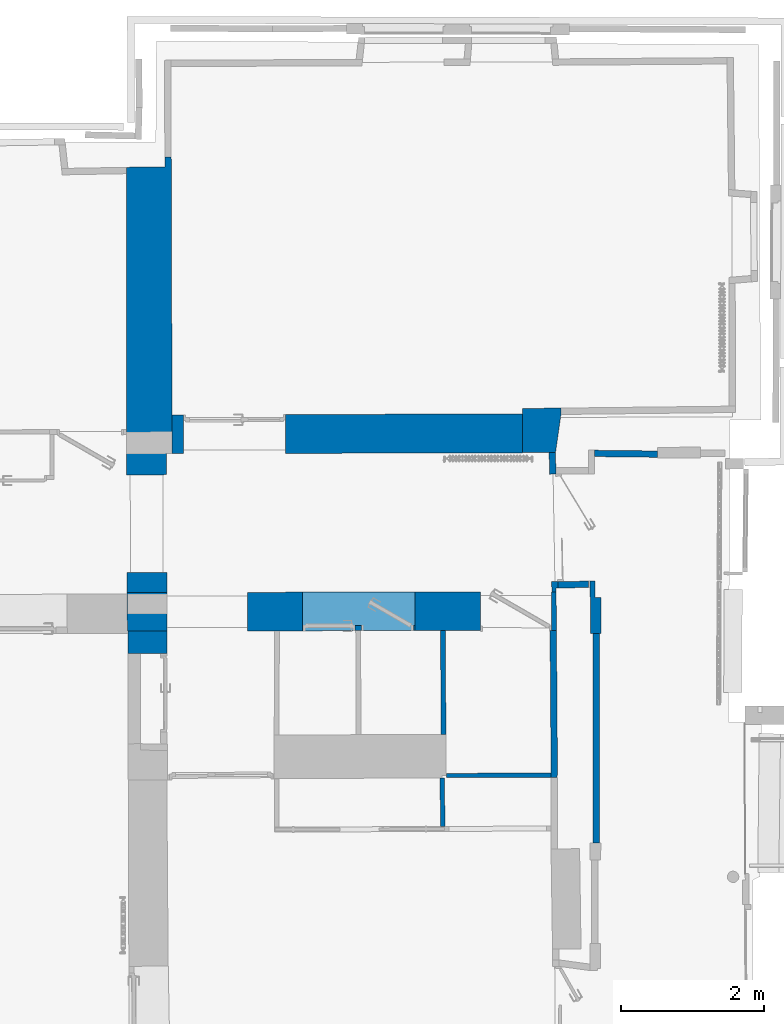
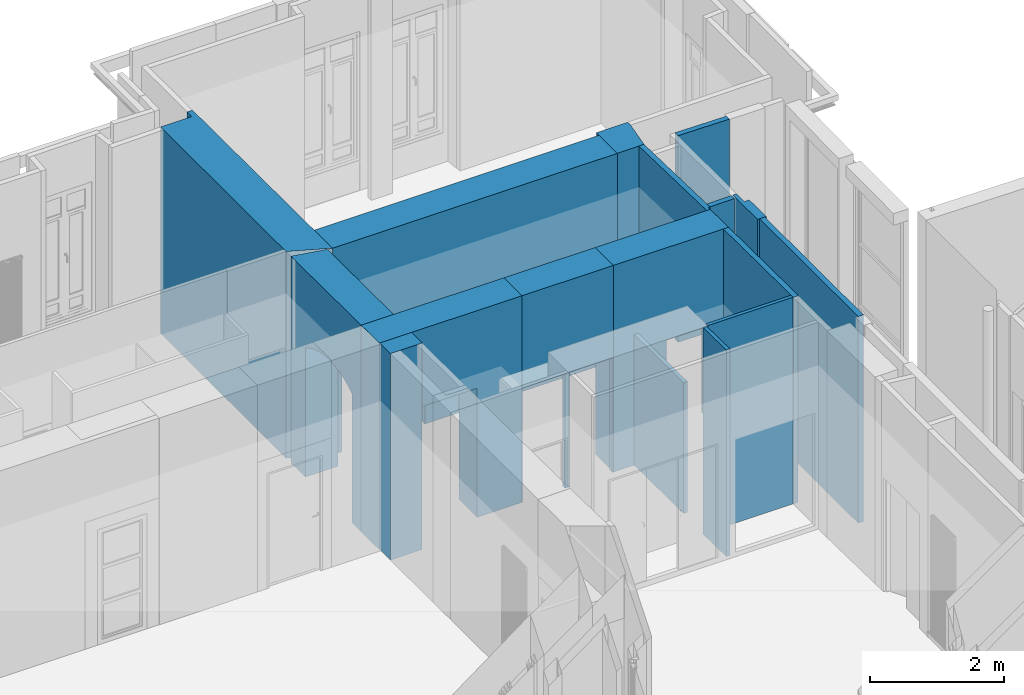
# One storey, part 13 of 66: 18 walls, 7 openings.
"""IFC2X3 building model written with IfcOpenShell, lengths in centimetres."""

from ifc_helpers import new_model, entity, si_unit, converted_unit, point, direction, frame, frame_2d, origin, origin_with_axes, origin_2d_with_axis, place, context, subcontext, project, spatial, polyline, circle_curve, trimmed, segment, composite_curve, rectangle, outline, extrude, clip, bounded_halfspace, shape, material, layer, layer_set, layer_usage, type_object, element, save


model = new_model("IFC2X3")

# Units and contexts
model_context = context("Model", 3, precision=0.0001, world=origin(), true_north=direction((0.225632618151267, 0.974212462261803, 0.0)))
body_context = subcontext(model_context, "Body", "Model", "MODEL_VIEW")
footprint_context = subcontext(model_context, "FootPrint", "Model", "MODEL_VIEW")
profile_context = subcontext(model_context, "Profile", "Model", "MODEL_VIEW")
ifc_project = project(units=[si_unit("LENGTHUNIT", "METRE", prefix="CENTI"), si_unit("AREAUNIT", "SQUARE_METRE", prefix="CENTI"), si_unit("VOLUMEUNIT", "CUBIC_METRE", prefix="CENTI"), converted_unit("PLANEANGLEUNIT", "DEGREE", entity("IfcRatioMeasure", 0.0174532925), si_unit("PLANEANGLEUNIT", "RADIAN"), dimensions=[0, 0, 0, 0, 0, 0, 0])], contexts=[model_context])

# Site, building, storey
site_placement = place(None, origin_with_axes())
site = spatial("IfcSite", under=ifc_project, at=site_placement, Name="Default Site", CompositionType="ELEMENT")
building_placement = place(site_placement, origin_with_axes())
building = spatial("IfcBuilding", under=site, at=building_placement, Name="Default Building", CompositionType="ELEMENT")
storey_placement = place(building_placement, frame((0.0, 0.0, 477.795358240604), z_axis=(0.0, 0.0, 1.0), x_axis=(1.0, 0.0, 0.0)))
storey = spatial("IfcBuildingStorey", under=building, at=storey_placement, Name="Niveau 1", CompositionType="ELEMENT", Elevation=477.795358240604)

# Walls
ifc_material = material(Name="<aucun>")
ifc_layer_1 = layer(ifc_material, 9.0)
ifc_layer_set_1 = layer_set([ifc_layer_1], Name="default")
ifc_layer_usage_1 = layer_usage(ifc_layer_set_1, "AXIS2", "POSITIVE", -4.5)
wall_type_1 = type_object("IfcWallType", Name="default 90", PredefinedType="NOTDEFINED", material=ifc_layer_set_1)
wall_1_placement = place(storey_placement, frame((838.725642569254, -26.0665606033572, 0.0128503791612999), z_axis=(0.0, 0.0, 1.0), x_axis=(0.999866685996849, 0.0163282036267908, 0.0)))
element("IfcWallStandardCase", 1, at=wall_1_placement, inside=storey, type_object=wall_type_1, material=ifc_layer_usage_1, Name="Enveloppe 598638", context=body_context, shape_type="SweptSolid", body=[
    extrude(outline(polyline([(3.5527136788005e-13, 4.50000000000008), (0.0289438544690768, -4.4999999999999), (42.482440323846, -4.50000000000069), (42.6150506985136, 4.4999999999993), (3.5527136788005e-13, 4.50000000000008)])), frame((0.0, 0.0, 1.77635683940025e-13), z_axis=(0.0, 0.0, 1.0), x_axis=(1.0, 0.0, 0.0)), (0.0, 0.0, 1.0), 376.102165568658),
])
ifc_layer_usage_2 = layer_usage(ifc_layer_set_1, "AXIS2", "POSITIVE", -4.5)
wall_2_placement = place(storey_placement, frame((833.412428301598, -293.074840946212, 0.0128503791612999), z_axis=(0.0, 0.0, 1.0), x_axis=(-0.007573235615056, 0.999971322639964, 0.0)))
element("IfcWallStandardCase", 2, at=wall_2_placement, inside=storey, type_object=wall_type_1, material=ifc_layer_usage_2, Name="Enveloppe 93529", context=body_context, shape_type="SweptSolid", body=[
    extrude(outline(polyline([(202.961169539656, 4.50000000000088), (-2.91803559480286, 4.49999999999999), (-2.95994803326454, -4.07852969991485), (4.44089209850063e-14, -4.09299122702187), (4.44089209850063e-14, -4.49999999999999), (202.901103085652, -4.49999999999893), (202.961169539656, 4.50000000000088)])), frame((0.0, 0.0, -3.5527136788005e-13), z_axis=(0.0, 0.0, 1.0), x_axis=(1.0, 0.0, 0.0)), (0.0, 0.0, 1.0), 376.102165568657),
])

# Wall, opening
ifc_layer_usage_3 = layer_usage(ifc_layer_set_1, "AXIS2", "POSITIVE", -4.5)
wall_3_placement = place(storey_placement, frame((834.436282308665, -36.1458988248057, 0.0128503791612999), z_axis=(0.0, 0.0, 1.0), x_axis=(-0.0195436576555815, 0.999809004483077, 0.0)))
wall_3 = element("IfcWallStandardCase", 3, at=wall_3_placement, inside=storey, type_object=wall_type_1, material=ifc_layer_usage_3, Name="Enveloppe 93206", context=body_context, shape_type="SweptSolid", body=[
    extrude(outline(polyline([(195.714261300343, 4.49999999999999), (165.12166703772, 4.50000000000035), (0.0826139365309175, 4.49999999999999), (-0.0298344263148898, -1.53014443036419), (5.52801905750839, -1.59668397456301), (5.49351351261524, -4.49999999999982), (165.12166703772, -4.49999999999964), (195.640431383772, -4.50000000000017), (195.714261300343, 4.49999999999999)])), frame((0.0, 0.0, -1.77635683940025e-13), z_axis=(0.0, 0.0, 1.0), x_axis=(1.0, 0.0, 0.0)), (0.0, 0.0, 1.0), 376.102165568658),
])
opening_1_placement = place(wall_3_placement, frame((14.4935600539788, 1.13686837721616e-13, -8.97060203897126e-14), z_axis=(0.0, 0.0, 1.0), x_axis=(-1.0, 1.00267016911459e-15, 0.0)))
cartesian_point_1 = entity("IfcCartesianPoint", [-2.22044604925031e-14, 0.0, 208.0])
cartesian_point_2 = entity("IfcCartesianPoint", [-150.628106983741, -4.49999999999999])
element("IfcOpeningElement", 4, at=opening_1_placement, cuts=wall_3, Name="4294966341_11", ObjectType="Opening", shapes=[
    shape(body_context, "Body", "SweptSolid", [extrude(outline(polyline([(2.22044604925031e-14, 208.0), (0.0, 0.0), (150.628106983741, 0.0), (150.628106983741, 208.0), (2.22044604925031e-14, 208.0)])), frame((0.0, -14.5, 0.0), z_axis=(0.0, 1.0, 0.0), x_axis=(-1.0, 0.0, 0.0)), (0.0, 0.0, 1.0), 29.0)]),
    shape(profile_context, "Profile", "GeometricCurveSet", [entity("IfcGeometricCurveSet", [entity("IfcPolyline", [cartesian_point_1, entity("IfcCartesianPoint", [0.0, 0.0, 0.0]), entity("IfcCartesianPoint", [-150.628106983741, 0.0, 0.0]), entity("IfcCartesianPoint", [-150.628106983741, 0.0, 208.0]), cartesian_point_1])])]),
    shape(footprint_context, "FootPrint", "GeometricCurveSet", [entity("IfcGeometricCurveSet", [entity("IfcPolyline", [cartesian_point_2, entity("IfcCartesianPoint", [0.0, -4.49999999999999]), entity("IfcCartesianPoint", [0.0, 4.49999999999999]), entity("IfcCartesianPoint", [-150.628106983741, 4.49999999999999]), cartesian_point_2])])]),
])

# Wall
ifc_layer_2 = layer(ifc_material, 6.0)
ifc_layer_set_2 = layer_set([ifc_layer_2], Name="default")
ifc_layer_usage_4 = layer_usage(ifc_layer_set_2, "AXIS2", "POSITIVE", -3.0)
wall_type_2 = type_object("IfcWallType", Name="default 60", PredefinedType="NOTDEFINED", material=ifc_layer_set_2)
wall_4_placement = place(storey_placement, frame((679.275555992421, -293.235673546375, 0.0128503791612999), z_axis=(0.0, 0.0, 1.0), x_axis=(0.999997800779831, 0.00209724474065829, 0.0)))
element("IfcWallStandardCase", 5, at=wall_4_placement, inside=storey, type_object=wall_type_2, material=ifc_layer_usage_4, Name="Enveloppe 93395", context=body_context, shape_type="Clipping", body=[
    clip(extrude(rectangle(XDim=146.828783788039, YDim=5.99999999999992, at=origin_2d_with_axis()), frame((75.8170954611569, 0.00040003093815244, 0.0), z_axis=(0.0, 0.0, 1.0), x_axis=(0.999999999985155, -5.44894435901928e-06, 0.0)), (0.0, 0.0, 1.0), 376.102165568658), bounded_halfspace(frame((2.40270189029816, 2.99999999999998, 238.102165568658), z_axis=(0.0, 0.0, 1.0), x_axis=(1.0, -8.15198603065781e-14, 0.0)), True, frame((2.40270189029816, 2.99999999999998, 238.102165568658), z_axis=(0.0, 0.0, 1.0), x_axis=(1.0, 0.0, 0.0)), polyline([(8.88178419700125e-14, -5.99999999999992), (0.0, 0.0), (0.381483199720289, 0.0), (0.381483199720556, -5.99999999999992), (8.88178419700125e-14, -5.99999999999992)]))),
])

# Wall, openings
ifc_layer_3 = layer(ifc_material, 7.0)
ifc_layer_set_3 = layer_set([ifc_layer_3], Name="default")
ifc_layer_usage_5 = layer_usage(ifc_layer_set_3, "AXIS2", "POSITIVE", -3.5)
wall_type_3 = type_object("IfcWallType", Name="default 70", PredefinedType="NOTDEFINED", material=ifc_layer_set_3)
wall_5_placement = place(storey_placement, frame((478.91854388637, -86.9669570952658, 0.0128503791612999), z_axis=(0.0, 0.0, 1.0), x_axis=(0.99999959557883, 0.000899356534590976, 0.0)))
wall_5 = element("IfcWallStandardCase", 6, at=wall_5_placement, inside=storey, type_object=wall_type_3, material=ifc_layer_usage_5, Name="Enveloppe 95537", context=body_context, shape_type="SweptSolid", body=[
    extrude(outline(polyline([(76.0852809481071, 3.49999999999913), (76.085280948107, -3.50000000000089), (76.0756410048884, 3.50000866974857), (1.86087776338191, 3.49999999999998), (1.86087776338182, -3.50000000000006), (76.085280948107, -3.50000000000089), (159.249905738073, -3.50000000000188), (159.249905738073, 3.49999999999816), (76.0852809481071, 3.49999999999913)])), frame((0.0, 0.0, -1.77635683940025e-13), z_axis=(0.0, 0.0, 1.0), x_axis=(1.0, 0.0, 0.0)), (0.0, 0.0, 1.0), 208.102165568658),
])
opening_2_placement = place(wall_5_placement, frame((83.928743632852, -9.66338120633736e-13, -1.77635683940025e-13), z_axis=(0.0, 0.0, 1.0), x_axis=(1.0, -1.15063123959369e-14, 0.0)))
cartesian_point_3 = entity("IfcCartesianPoint", [0.0, 0.0, 208.0])
cartesian_point_4 = entity("IfcCartesianPoint", [73.0000000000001, 3.5])
element("IfcOpeningElement", 7, at=opening_2_placement, cuts=wall_5, Name="4294966336_11", ObjectType="Opening", shapes=[
    shape(body_context, "Body", "SweptSolid", [extrude(outline(polyline([(0.0, 208.0), (0.0, 0.0), (73.0, 0.0), (73.0000000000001, 208.0), (0.0, 208.0)])), frame((0.0, 13.5, 0.0), z_axis=(0.0, -1.0, 0.0), x_axis=(1.0, 0.0, 0.0)), (0.0, 0.0, 1.0), 27.0)]),
    shape(profile_context, "Profile", "GeometricCurveSet", [entity("IfcGeometricCurveSet", [entity("IfcPolyline", [cartesian_point_3, entity("IfcCartesianPoint", [0.0, 0.0, 0.0]), entity("IfcCartesianPoint", [73.0, -1.11022302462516e-14, 0.0]), entity("IfcCartesianPoint", [73.0000000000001, -1.11022302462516e-14, 208.0]), cartesian_point_3])])]),
    shape(footprint_context, "FootPrint", "GeometricCurveSet", [entity("IfcGeometricCurveSet", [entity("IfcPolyline", [cartesian_point_4, entity("IfcCartesianPoint", [0.0, 3.5]), entity("IfcCartesianPoint", [8.88178419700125e-14, -3.5]), entity("IfcCartesianPoint", [73.0000000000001, -3.50000000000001]), cartesian_point_4])])]),
])
opening_3_placement = place(wall_5_placement, frame((2.48649750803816, -2.8421709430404e-14, -8.88178419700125e-14), z_axis=(0.0, 0.0, 1.0), x_axis=(1.0, -1.16162504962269e-14, 0.0)))
cartesian_point_5 = entity("IfcCartesianPoint", [0.0, -1.11022302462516e-14, 208.0])
cartesian_point_6 = entity("IfcCartesianPoint", [72.9999999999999, 3.49999999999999])
element("IfcOpeningElement", 8, at=opening_3_placement, cuts=wall_5, Name="4294966332_11", ObjectType="Opening", shapes=[
    shape(body_context, "Body", "SweptSolid", [extrude(outline(polyline([(-8.88178419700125e-14, 208.0), (-8.88178419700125e-14, -8.88178419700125e-14), (72.9999999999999, -8.88178419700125e-14), (72.9999999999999, 208.0), (-8.88178419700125e-14, 208.0)])), frame((0.0, 13.5, 0.0), z_axis=(0.0, -1.0, 0.0), x_axis=(1.0, 0.0, 0.0)), (0.0, 0.0, 1.0), 27.0)]),
    shape(profile_context, "Profile", "GeometricCurveSet", [entity("IfcGeometricCurveSet", [entity("IfcPolyline", [cartesian_point_5, entity("IfcCartesianPoint", [0.0, -1.11022302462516e-14, -8.88178419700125e-14]), entity("IfcCartesianPoint", [73.0, -1.11022302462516e-14, -8.88178419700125e-14]), entity("IfcCartesianPoint", [73.0, -1.11022302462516e-14, 208.0]), cartesian_point_5])])]),
    shape(footprint_context, "FootPrint", "GeometricCurveSet", [entity("IfcGeometricCurveSet", [entity("IfcPolyline", [cartesian_point_6, entity("IfcCartesianPoint", [-8.88178419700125e-14, 3.49999999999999]), entity("IfcCartesianPoint", [8.88178419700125e-14, -3.50000000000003]), entity("IfcCartesianPoint", [73.0, -3.50000000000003]), cartesian_point_6])])]),
])

# Walls
ifc_layer_4 = layer(ifc_material, 62.0)
ifc_layer_set_4 = layer_set([ifc_layer_4], Name="default")
ifc_layer_usage_6 = layer_usage(ifc_layer_set_4, "AXIS2", "POSITIVE", -31.0)
wall_type_4 = type_object("IfcWallType", Name="default 620", PredefinedType="NOTDEFINED", material=ifc_layer_set_4)
wall_6_placement = place(storey_placement, frame((788.979451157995, 190.023860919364, 0.0128503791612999), z_axis=(0.0, 0.0, 1.0), x_axis=(0.999935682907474, 0.0113415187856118, 0.0)))
element("IfcWallStandardCase", 9, at=wall_6_placement, inside=storey, type_object=wall_type_4, material=ifc_layer_usage_6, Name="Enveloppe 95008", context=body_context, shape_type="SweptSolid", body=[
    extrude(outline(polyline([(-1.77635683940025e-13, 31.0), (-3.5527136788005e-13, 23.4304907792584), (-0.478006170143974, -31.0), (45.7837996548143, -31.0), (54.0297826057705, 21.9999999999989), (54.0297826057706, 30.9999999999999), (-1.77635683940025e-13, 31.0)])), frame((0.0, 0.0, -8.88178419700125e-14), z_axis=(0.0, 0.0, 1.0), x_axis=(1.0, 0.0, 0.0)), (0.0, 0.0, 1.0), 376.102165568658),
])
ifc_layer_usage_7 = layer_usage(ifc_layer_set_1, "AXIS2", "POSITIVE", -4.5)
wall_type_5 = type_object("IfcWallType", Name="default 90", PredefinedType="NOTDEFINED", material=ifc_layer_set_1)
wall_7_placement = place(storey_placement, frame((978.255667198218, 157.060821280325, 0.0128503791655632), z_axis=(0.0, 0.0, 1.0), x_axis=(-0.999934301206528, 0.0114626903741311, 0.0)))
element("IfcWallStandardCase", 10, at=wall_7_placement, inside=storey, type_object=wall_type_5, material=ifc_layer_usage_7, Name="Enveloppe 442674", context=body_context, shape_type="SweptSolid", body=[
    extrude(outline(polyline([(88.3441944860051, -4.50000000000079), (88.2266617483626, 4.49999999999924), (0.123614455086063, 4.50000000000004), (0.123614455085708, -4.50000000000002), (88.3441944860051, -4.50000000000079)])), frame((0.0, 0.0, -1.77635683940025e-13), z_axis=(0.0, 0.0, 1.0), x_axis=(1.0, 0.0, 0.0)), (0.0, 0.0, 1.0), 376.102165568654),
])
ifc_layer_usage_8 = layer_usage(ifc_layer_set_1, "AXIS2", "POSITIVE", -4.5)
wall_8_placement = place(storey_placement, frame((892.307692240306, -387.721347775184, 0.0128503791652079), z_axis=(0.0, 0.0, 1.0), x_axis=(-0.00106275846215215, 0.999999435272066, 0.0)))
element("IfcWallStandardCase", 11, at=wall_8_placement, inside=storey, type_object=wall_type_5, material=ifc_layer_usage_8, Name="Enveloppe 424507", context=body_context, shape_type="SweptSolid", body=[
    extrude(outline(polyline([(293.513161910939, 4.50095188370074), (0.0529510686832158, 4.49999999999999), (0.0322209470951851, -4.50000000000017), (293.557398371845, -4.49892996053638), (293.513161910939, 4.50095188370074)])), frame((0.0, 0.0, 3.5527136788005e-13), z_axis=(0.0, 0.0, 1.0), x_axis=(1.0, 0.0, 0.0)), (0.0, 0.0, 1.0), 376.102165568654),
])
ifc_layer_5 = layer(ifc_material, 15.0)
ifc_layer_set_5 = layer_set([ifc_layer_5], Name="default")
ifc_layer_usage_9 = layer_usage(ifc_layer_set_5, "AXIS2", "POSITIVE", -7.5)
wall_type_6 = type_object("IfcWallType", Name="default 150", PredefinedType="NOTDEFINED", material=ifc_layer_set_5)
wall_9_placement = place(storey_placement, frame((891.563778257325, -94.1888166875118, 0.0128503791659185), z_axis=(0.0, 0.0, 1.0), x_axis=(-0.00597783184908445, 0.99998213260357, 0.0)))
element("IfcWallStandardCase", 12, at=wall_9_placement, inside=storey, type_object=wall_type_6, material=ifc_layer_usage_9, Name="Enveloppe 426398", context=body_context, shape_type="SweptSolid", body=[
    extrude(outline(polyline([(73.3673994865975, 7.49999999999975), (1.11022302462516e-14, 7.50000000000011), (3.33066907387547e-14, -7.49999999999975), (50.2189661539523, -7.49999999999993), (50.2189661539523, 0.965183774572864), (73.3383173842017, 0.863865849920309), (73.3673994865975, 7.49999999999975)])), frame((0.0, 0.0, -3.5527136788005e-13), z_axis=(0.0, 0.0, 1.0), x_axis=(1.0, 0.0, 0.0)), (0.0, 0.0, 1.0), 376.102165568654),
])
ifc_layer_6 = layer(ifc_material, 54.0)
ifc_layer_set_6 = layer_set([ifc_layer_6], Name="default")
ifc_layer_usage_10 = layer_usage(ifc_layer_set_6, "AXIS2", "POSITIVE", -27.0)
wall_type_7 = type_object("IfcWallType", Name="default 540", PredefinedType="NOTDEFINED", material=ifc_layer_set_6)
wall_10_placement = place(storey_placement, frame((480.75828601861, -63.4652930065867, 208.115015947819), z_axis=(0.0, 0.0, 1.0), x_axis=(0.99999959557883, 0.000899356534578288, 0.0)))
element("IfcWallStandardCase", 13, at=wall_10_placement, inside=storey, type_object=wall_type_7, material=ifc_layer_usage_10, Name="Enveloppe 101937", context=body_context, shape_type="SweptSolid", body=[
    extrude(outline(polyline([(77.6777571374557, 27.0000000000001), (74.2147632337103, 27.0000000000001), (8.88178419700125e-14, 27.0), (8.88178419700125e-14, -27.0), (74.2244032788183, -26.9998953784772), (77.6777571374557, -26.9999999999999), (157.389027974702, -26.9999999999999), (157.389027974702, 27.0000000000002), (77.6777571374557, 27.0000000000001)])), frame((0.0, 0.0, -2.66453525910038e-13), z_axis=(0.0, 0.0, 1.0), x_axis=(1.0, 0.0, 0.0)), (0.0, 0.0, 1.0), 168.000000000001),
])

# Wall, opening
ifc_layer_usage_11 = layer_usage(ifc_layer_set_6, "AXIS2", "POSITIVE", -27.0)
wall_11_placement = place(storey_placement, frame((638.147250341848, -63.3237441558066, 0.0128503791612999), z_axis=(0.0, 0.0, 1.0), x_axis=(0.99999959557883, 0.000899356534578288, 0.0)))
wall_11 = element("IfcWallStandardCase", 14, at=wall_11_placement, inside=storey, type_object=wall_type_7, material=ifc_layer_usage_11, Name="Enveloppe 93139", context=body_context, shape_type="SweptSolid", body=[
    extrude(outline(polyline([(38.9031616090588, 27.0), (35.3959264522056, 27.0), (9.05941988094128e-12, 27.0), (9.14823772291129e-12, -27.0), (35.3959267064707, -26.999717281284), (38.9031616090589, -26.9999999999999), (198.204228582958, -26.9999999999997), (197.843829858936, 27.0000000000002), (38.9031616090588, 27.0)])), frame((0.0, 0.0, -3.5527136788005e-13), z_axis=(0.0, 0.0, 1.0), x_axis=(1.0, 0.0, 0.0)), (0.0, 0.0, 1.0), 376.102165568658),
])
opening_4_placement = place(wall_11_placement, frame((91.5323365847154, 1.20792265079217e-13, -1.78523862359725e-13), z_axis=(0.0, 0.0, 1.0), x_axis=(1.0, 1.27437123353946e-15, 0.0)))
cartesian_point_7 = entity("IfcCartesianPoint", [0.0, 0.0, 208.0])
cartesian_point_8 = entity("IfcCartesianPoint", [99.8667080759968, 27.0])
element("IfcOpeningElement", 15, at=opening_4_placement, cuts=wall_11, Name="4294966340_11", ObjectType="Opening", shapes=[
    shape(body_context, "Body", "SweptSolid", [extrude(outline(polyline([(0.0, 208.0), (-8.88178419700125e-14, 0.0), (99.8667080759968, 0.0), (99.8667080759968, 208.0), (0.0, 208.0)])), frame((0.0, 37.0, 0.0), z_axis=(0.0, -1.0, 0.0), x_axis=(1.0, 0.0, 0.0)), (0.0, 0.0, 1.0), 74.0)]),
    shape(profile_context, "Profile", "GeometricCurveSet", [entity("IfcGeometricCurveSet", [entity("IfcPolyline", [cartesian_point_7, entity("IfcCartesianPoint", [0.0, 0.0, 0.0]), entity("IfcCartesianPoint", [99.8667080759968, 0.0, 0.0]), entity("IfcCartesianPoint", [99.8667080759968, 0.0, 208.0]), cartesian_point_7])])]),
    shape(footprint_context, "FootPrint", "GeometricCurveSet", [entity("IfcGeometricCurveSet", [entity("IfcPolyline", [cartesian_point_8, entity("IfcCartesianPoint", [-8.88178419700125e-14, 27.0]), entity("IfcCartesianPoint", [-8.88178419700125e-14, -27.0]), entity("IfcCartesianPoint", [99.8667080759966, -27.0]), cartesian_point_8])])]),
])

ifc_layer_usage_12 = layer_usage(ifc_layer_set_6, "AXIS2", "POSITIVE", -27.0)
wall_12_placement = place(storey_placement, frame((290.317054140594, -63.6365676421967, 0.0128503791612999), z_axis=(0.0, 0.0, 1.0), x_axis=(0.99999959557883, 0.000899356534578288, 0.0)))
wall_12 = element("IfcWallStandardCase", 16, at=wall_12_placement, inside=storey, type_object=wall_type_7, material=ifc_layer_usage_12, Name="Enveloppe 95721", context=body_context, shape_type="SweptSolid", body=[
    extrude(outline(polyline([(154.415887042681, 27.0000000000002), (150.915939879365, 27.0000000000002), (0.489215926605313, 27.0), (-55.5101893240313, 26.7419078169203), (-55.3783896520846, -26.9993506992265), (150.915939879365, -26.9999999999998), (154.415887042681, -26.9999999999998), (190.441308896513, -26.9999999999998), (190.441308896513, 27.0000000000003), (154.415887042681, 27.0000000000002)])), frame((0.0, 0.0, -2.66453525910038e-13), z_axis=(0.0, 0.0, 1.0), x_axis=(1.0, 0.0, 0.0)), (0.0, 0.0, 1.0), 376.102165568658),
])
opening_5_placement = place(wall_12_placement, frame((0.0714879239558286, -7.105427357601e-15, 8.79296635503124e-14), z_axis=(0.0, 0.0, 1.0), x_axis=(1.0, 1.26808286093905e-15, 0.0)))
cartesian_point_9 = entity("IfcCartesianPoint", [0.0, 0.0, 235.0])
cartesian_point_10 = entity("IfcCartesianPoint", [113.0, 27.0])
element("IfcOpeningElement", 17, at=opening_5_placement, cuts=wall_12, Name="Baie 103100", ObjectType="Opening", shapes=[
    shape(body_context, "Body", "SweptSolid", [extrude(outline(polyline([(0.0, 235.0), (0.0, -8.88178419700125e-14), (113.0, -8.88178419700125e-14), (113.0, 235.0), (0.0, 235.0)])), frame((0.0, 37.0, 0.0), z_axis=(0.0, -1.0, 0.0), x_axis=(1.0, 0.0, 0.0)), (0.0, 0.0, 1.0), 74.0)]),
    shape(profile_context, "Profile", "GeometricCurveSet", [entity("IfcGeometricCurveSet", [entity("IfcPolyline", [cartesian_point_9, entity("IfcCartesianPoint", [0.0, 0.0, -8.88178419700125e-14]), entity("IfcCartesianPoint", [113.0, 1.11022302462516e-14, -8.88178419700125e-14]), entity("IfcCartesianPoint", [113.0, 1.11022302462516e-14, 235.0]), cartesian_point_9])])]),
    shape(footprint_context, "FootPrint", "GeometricCurveSet", [entity("IfcGeometricCurveSet", [entity("IfcPolyline", [cartesian_point_10, entity("IfcCartesianPoint", [0.0, 27.0]), entity("IfcCartesianPoint", [0.0, -27.0]), entity("IfcCartesianPoint", [113.0, -27.0]), cartesian_point_10])])]),
])

ifc_layer_7 = layer(ifc_material, 56.0)
ifc_layer_set_7 = layer_set([ifc_layer_7], Name="default")
ifc_layer_usage_13 = layer_usage(ifc_layer_set_7, "AXIS2", "POSITIVE", -28.0)
wall_type_8 = type_object("IfcWallType", Name="default 560", PredefinedType="NOTDEFINED", material=ifc_layer_set_7)
wall_13_placement = place(storey_placement, frame((262.799338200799, -39.8632661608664, 0.0128503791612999), z_axis=(0.0, 0.0, 1.0), x_axis=(-0.00550813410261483, 0.999984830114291, 0.0)))
wall_13 = element("IfcWallStandardCase", 18, at=wall_13_placement, inside=storey, type_object=wall_type_8, material=ifc_layer_usage_13, Name="Enveloppe 92847", context=body_context, shape_type="SweptSolid", body=[
    extrude(outline(polyline([(211.12350783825, 28.0), (3.07294644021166, 28.0), (3.07294644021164, -28.0), (199.105133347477, -28.0), (211.12350783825, 28.0)])), frame((0.0, 0.0, -2.66453525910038e-13), z_axis=(0.0, 0.0, 1.0), x_axis=(1.0, 0.0, 0.0)), (0.0, 0.0, 1.0), 376.102165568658),
])
opening_6_placement = place(wall_13_placement, frame((30.9079759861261, 5.6843418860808e-14, 1.77635683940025e-13), z_axis=(0.0, 0.0, 1.0), x_axis=(1.0, -2.42861286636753e-17, 0.0)))
cartesian_point_11 = entity("IfcCartesianPoint", [1.52655665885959e-14, -4.44089209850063e-14, 235.0])
cartesian_point_12 = entity("IfcCartesianPoint", [137.0, -4.44089209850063e-14, 235.0])
cartesian_point_13 = entity("IfcCartesianPoint", [137.0, 28.0])
element("IfcOpeningElement", 19, at=opening_6_placement, cuts=wall_13, Name="Baie 103103", ObjectType="Opening", shapes=[
    shape(body_context, "Body", "SweptSolid", [extrude(outline(composite_curve([segment(polyline([(1.52655665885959e-14, 235.0), (-1.38777878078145e-15, 0.0), (137.0, 0.0), (137.0, 235.0)]), True, "CONTINUOUS"), segment(trimmed(circle_curve(frame_2d((68.5, 136.102646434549), x_axis=(1.0, 0.0)), 120.303518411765), [point((137.0, 235.0))], [point((1.52655665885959e-14, 235.0))], True, "CARTESIAN"), True, "CONTINUOUS")], self_intersect=False)), frame((0.0, 38.0, 0.0), z_axis=(0.0, -1.0, 0.0), x_axis=(1.0, 0.0, 0.0)), (0.0, 0.0, 1.0), 76.0)]),
    shape(profile_context, "Profile", "GeometricCurveSet", [entity("IfcGeometricCurveSet", [entity("IfcCompositeCurve", [entity("IfcCompositeCurveSegment", "CONTINUOUS", True, entity("IfcPolyline", [cartesian_point_11, entity("IfcCartesianPoint", [-1.38777878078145e-15, -4.44089209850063e-14, 0.0]), entity("IfcCartesianPoint", [137.0, -4.44089209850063e-14, 0.0]), cartesian_point_12])), entity("IfcCompositeCurveSegment", "CONTINUOUS", True, entity("IfcTrimmedCurve", entity("IfcCircle", entity("IfcAxis2Placement3D", entity("IfcCartesianPoint", [68.5, -4.44089209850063e-14, 136.102646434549]), entity("IfcDirection", [0.0, -1.0, 0.0]), entity("IfcDirection", [-1.0, 0.0, 0.0])), 120.303518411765), [cartesian_point_12], [cartesian_point_11], True, "CARTESIAN"))], False)])]),
    shape(footprint_context, "FootPrint", "GeometricCurveSet", [entity("IfcGeometricCurveSet", [entity("IfcPolyline", [cartesian_point_13, entity("IfcCartesianPoint", [-1.38777878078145e-15, 28.0]), entity("IfcCartesianPoint", [-1.38777878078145e-15, -28.0]), entity("IfcCartesianPoint", [137.0, -28.0]), cartesian_point_13])])]),
])

# Wall
ifc_layer_8 = layer(ifc_material, 63.0)
ifc_layer_set_8 = layer_set([ifc_layer_8], Name="default")
ifc_layer_usage_14 = layer_usage(ifc_layer_set_8, "AXIS2", "POSITIVE", -31.5)
wall_type_9 = type_object("IfcWallType", Name="default 630", PredefinedType="NOTDEFINED", material=ifc_layer_set_8)
wall_14_placement = place(storey_placement, frame((266.238536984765, 188.431910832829, 0.0128503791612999), z_axis=(0.0, 0.0, 1.0), x_axis=(-0.00303669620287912, 0.999995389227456, 0.0)))
element("IfcWallStandardCase", 20, at=wall_14_placement, inside=storey, type_object=wall_type_9, material=ifc_layer_usage_14, Name="Enveloppe 92672", context=body_context, shape_type="SweptSolid", body=[
    extrude(outline(polyline([(370.743273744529, 31.5676845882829), (359.710410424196, 31.5738544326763), (3.47242136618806, 32.6220631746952), (-3.52766111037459, 32.6220634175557), (-3.52759655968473, 32.6433202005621), (-3.5666981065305, 32.6434389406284), (-30.8317182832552, -31.5), (-29.1099544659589, -23.3753883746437), (-30.8932348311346, -23.3797956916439), (-30.8932342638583, -31.499813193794), (384.740866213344, -31.4999999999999), (384.740866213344, -22.5), (370.753871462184, -22.5), (370.753871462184, 30.8930981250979), (370.743273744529, 31.5676845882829)])), frame((0.0, 0.0, -2.66453525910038e-13), z_axis=(0.0, 0.0, 1.0), x_axis=(1.0, 0.0, 0.0)), (0.0, 0.0, 1.0), 376.102165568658),
])

# Wall, opening
ifc_layer_9 = layer(ifc_material, 54.5)
ifc_layer_set_9 = layer_set([ifc_layer_9], Name="default")
ifc_layer_usage_15 = layer_usage(ifc_layer_set_9, "AXIS2", "POSITIVE", -27.25)
wall_type_10 = type_object("IfcWallType", Name="default 545", PredefinedType="NOTDEFINED", material=ifc_layer_set_9)
wall_15_placement = place(storey_placement, frame((297.754056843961, 184.945880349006, 0.0128503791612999), z_axis=(0.0, 0.0, 1.0), x_axis=(0.999996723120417, 0.00256002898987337, 0.0)))
wall_15 = element("IfcWallStandardCase", 21, at=wall_15_placement, inside=storey, type_object=wall_type_10, material=ifc_layer_usage_15, Name="Enveloppe 92747", context=body_context, shape_type="SweptSolid", body=[
    extrude(outline(polyline([(-0.0177777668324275, 27.2500000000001), (0.00820070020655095, -27.25), (491.159054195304, -27.2499993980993), (491.15922592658, -27.1829178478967), (491.031026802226, -27.1825896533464), (491.031026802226, 27.2500000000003), (-0.0177777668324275, 27.2500000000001)])), frame((0.0, 0.0, -2.66453525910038e-13), z_axis=(0.0, 0.0, 1.0), x_axis=(1.0, 0.0, 0.0)), (0.0, 0.0, 1.0), 376.102165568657),
])
opening_7_placement = place(wall_15_placement, frame((16.1222530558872, 0.0, -1.77635683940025e-13), z_axis=(0.0, 0.0, 1.0), x_axis=(-1.0, -4.97865637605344e-16, 0.0)))
cartesian_point_14 = entity("IfcCartesianPoint", [0.0, 2.22044604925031e-14, 208.0])
cartesian_point_15 = entity("IfcCartesianPoint", [-143.0, -27.25])
element("IfcOpeningElement", 22, at=opening_7_placement, cuts=wall_15, Name="4294966331_11", ObjectType="Opening", shapes=[
    shape(body_context, "Body", "SweptSolid", [extrude(outline(polyline([(0.0, 208.0), (0.0, -8.88178419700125e-14), (143.0, -8.88178419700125e-14), (143.0, 208.0), (0.0, 208.0)])), frame((0.0, -37.25, 0.0), z_axis=(0.0, 1.0, 0.0), x_axis=(-1.0, 0.0, 0.0)), (0.0, 0.0, 1.0), 74.5)]),
    shape(profile_context, "Profile", "GeometricCurveSet", [entity("IfcGeometricCurveSet", [entity("IfcPolyline", [cartesian_point_14, entity("IfcCartesianPoint", [0.0, 2.22044604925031e-14, -8.88178419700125e-14]), entity("IfcCartesianPoint", [-143.0, 0.0, -8.88178419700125e-14]), entity("IfcCartesianPoint", [-143.0, 0.0, 208.0]), cartesian_point_14])])]),
    shape(footprint_context, "FootPrint", "GeometricCurveSet", [entity("IfcGeometricCurveSet", [entity("IfcPolyline", [cartesian_point_15, entity("IfcCartesianPoint", [0.0, -27.25]), entity("IfcCartesianPoint", [4.44089209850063e-14, 27.25]), entity("IfcCartesianPoint", [-143.0, 27.25]), cartesian_point_15])])]),
])

# Walls
ifc_layer_10 = layer(ifc_material, 6.2)
ifc_layer_set_10 = layer_set([ifc_layer_10], Name="default")
ifc_layer_usage_16 = layer_usage(ifc_layer_set_10, "AXIS2", "POSITIVE", -3.1)
wall_type_11 = type_object("IfcWallType", Name="default 62", PredefinedType="NOTDEFINED", material=ifc_layer_set_10)
wall_16_placement = place(storey_placement, frame((677.147451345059, -364.674463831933, 0.0128503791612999), z_axis=(0.0, 0.0, 1.0), x_axis=(-0.0134614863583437, 0.999909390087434, 0.0)))
element("IfcWallStandardCase", 23, at=wall_16_placement, inside=storey, type_object=wall_type_11, material=ifc_layer_usage_16, Name="Enveloppe 93406", context=body_context, shape_type="SweptSolid", body=[
    extrude(outline(polyline([(67.8001763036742, 3.1000000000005), (-4.44089209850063e-14, 3.10000000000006), (-0.0578348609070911, -3.10000000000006), (67.7297124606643, -3.09999999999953), (67.8001763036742, 3.1000000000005)])), frame((0.0, 0.0, -2.66453525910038e-13), z_axis=(0.0, 0.0, 1.0), x_axis=(1.0, 0.0, 0.0)), (0.0, 0.0, 1.0), 376.102165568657),
])
ifc_layer_11 = layer(ifc_material, 54.7)
ifc_layer_set_11 = layer_set([ifc_layer_11], Name="default")
ifc_layer_usage_17 = layer_usage(ifc_layer_set_11, "AXIS2", "POSITIVE", -27.35)
wall_type_12 = type_object("IfcWallType", Name="default 547", PredefinedType="NOTDEFINED", material=ifc_layer_set_11)
wall_17_placement = place(storey_placement, frame((263.131080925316, -122.306910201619, 0.0128503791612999), z_axis=(0.0, 0.0, 1.0), x_axis=(-0.00303669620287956, 0.999995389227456, 0.0)))
element("IfcWallStandardCase", 24, at=wall_17_placement, inside=storey, type_object=wall_type_12, material=ifc_layer_usage_17, Name="Enveloppe 105190", context=body_context, shape_type="SweptSolid", body=[
    extrude(outline(polyline([(31.7051372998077, 27.349997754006), (2.22044604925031e-14, 27.3500000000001), (6.66133814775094e-14, -27.35), (31.5874847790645, -27.35), (31.7051372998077, 27.349997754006)])), frame((0.0, 0.0, -3.5527136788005e-13), z_axis=(0.0, 0.0, 1.0), x_axis=(1.0, 0.0, 0.0)), (0.0, 0.0, 1.0), 376.102165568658),
])
ifc_layer_12 = layer(ifc_material, 6.7)
ifc_layer_set_12 = layer_set([ifc_layer_12], Name="default")
ifc_layer_usage_18 = layer_usage(ifc_layer_set_12, "AXIS2", "POSITIVE", -3.35)
wall_type_13 = type_object("IfcWallType", Name="default 67", PredefinedType="NOTDEFINED", material=ifc_layer_set_12)
wall_18_placement = place(storey_placement, frame((678.210456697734, -235.895894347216, 0.0128503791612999), z_axis=(0.0, 0.0, 1.0), x_axis=(-0.00672066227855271, 0.999977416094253, 0.0)))
element("IfcWallStandardCase", 25, at=wall_18_placement, inside=storey, type_object=wall_type_13, material=ifc_layer_usage_18, Name="Enveloppe 95138", context=body_context, shape_type="SweptSolid", body=[
    extrude(outline(polyline([(145.630080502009, 3.34999999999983), (-8.88178419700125e-14, 3.35000000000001), (-0.0309767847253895, -3.34985677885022), (145.591076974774, -3.35000000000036), (145.630080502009, 3.34999999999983)])), frame((0.0, 0.0, -1.77635683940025e-13), z_axis=(0.0, 0.0, 1.0), x_axis=(1.0, 0.0, 0.0)), (0.0, 0.0, 1.0), 238.102165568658),
])

save(model, "model.ifc")
